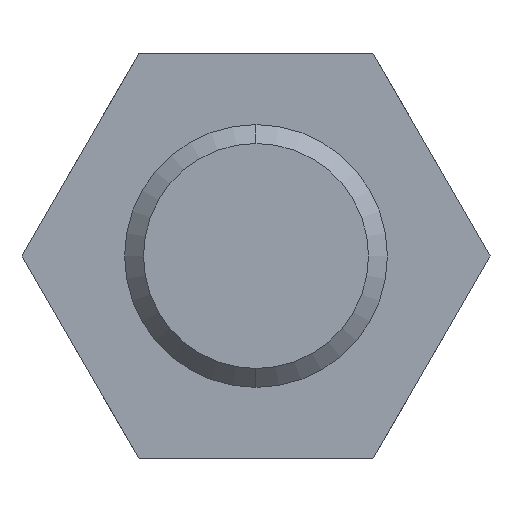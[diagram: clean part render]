
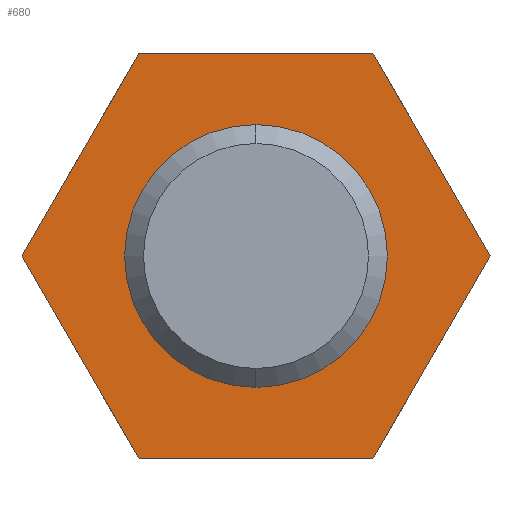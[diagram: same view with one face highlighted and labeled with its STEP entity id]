
A CAD part, front view. The second image highlights one B-rep face of the part: STEP entity #680.
In plain terms, the highlighted planar face has unit normal (0, -1, 0).
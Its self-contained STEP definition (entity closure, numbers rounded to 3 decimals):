
#22 = EDGE_CURVE ( 'NONE', #782, #386, #824, .T. ) ;
#30 = CARTESIAN_POINT ( 'NONE',  ( -9.62, 5.8, 1.663 ) ) ;
#50 = ORIENTED_EDGE ( 'NONE', *, *, #377, .T. ) ;
#92 = DIRECTION ( 'NONE',  ( 0., 0., 1. ) ) ;
#113 = CARTESIAN_POINT ( 'NONE',  ( 0., 5.8, -4.864 ) ) ;
#143 = VECTOR ( 'NONE', #708, 1000. ) ;
#144 = VECTOR ( 'NONE', #715, 1000. ) ;
#157 = AXIS2_PLACEMENT_3D ( 'NONE', #606, #958, #945 ) ;
#158 = VERTEX_POINT ( 'NONE', #331 ) ;
#185 = CARTESIAN_POINT ( 'NONE',  ( 3.37, 5.8, 9.163 ) ) ;
#197 = CARTESIAN_POINT ( 'NONE',  ( 4.33, 5.8, -7.5 ) ) ;
#231 = EDGE_CURVE ( 'NONE', #687, #782, #702, .T. ) ;
#251 = DIRECTION ( 'NONE',  ( 0., 0., -1. ) ) ;
#254 = VERTEX_POINT ( 'NONE', #1055 ) ;
#260 = DIRECTION ( 'NONE',  ( 0., 1., 0. ) ) ;
#306 = AXIS2_PLACEMENT_3D ( 'NONE', #768, #323, #251 ) ;
#323 = DIRECTION ( 'NONE',  ( 0., -1., 0. ) ) ;
#331 = CARTESIAN_POINT ( 'NONE',  ( -4.33, 5.8, -7.5 ) ) ;
#345 = DIRECTION ( 'NONE',  ( 1., 0., 0. ) ) ;
#361 = VERTEX_POINT ( 'NONE', #197 ) ;
#377 = EDGE_CURVE ( 'NONE', #386, #1074, #785, .T. ) ;
#386 = VERTEX_POINT ( 'NONE', #876 ) ;
#390 = CARTESIAN_POINT ( 'NONE',  ( -12.5, 5.8, 7.5 ) ) ;
#399 = VERTEX_POINT ( 'NONE', #113 ) ;
#418 = ORIENTED_EDGE ( 'NONE', *, *, #1069, .T. ) ;
#446 = LINE ( 'NONE', #618, #884 ) ;
#451 = ORIENTED_EDGE ( 'NONE', *, *, #22, .T. ) ;
#466 = CARTESIAN_POINT ( 'NONE',  ( 3.37, 5.8, -9.163 ) ) ;
#502 = ORIENTED_EDGE ( 'NONE', *, *, #525, .T. ) ;
#512 = LINE ( 'NONE', #30, #144 ) ;
#521 = CARTESIAN_POINT ( 'NONE',  ( -8.66, 5.8, 0. ) ) ;
#525 = EDGE_CURVE ( 'NONE', #361, #687, #1093, .T. ) ;
#606 = CARTESIAN_POINT ( 'NONE',  ( 0., 5.8, 0. ) ) ;
#618 = CARTESIAN_POINT ( 'NONE',  ( -12.5, 5.8, -7.5 ) ) ;
#650 = CIRCLE ( 'NONE', #157, 4.864 ) ;
#680 = ADVANCED_FACE ( 'NONE', ( #858, #1106 ), #1111, .T. ) ;
#687 = VERTEX_POINT ( 'NONE', #847 ) ;
#702 = LINE ( 'NONE', #185, #143 ) ;
#704 = CARTESIAN_POINT ( 'NONE',  ( 4.33, 5.8, 7.5 ) ) ;
#708 = DIRECTION ( 'NONE',  ( -0.5, 0., 0.866 ) ) ;
#715 = DIRECTION ( 'NONE',  ( 0.5, 0., -0.866 ) ) ;
#724 = EDGE_LOOP ( 'NONE', ( #795, #502, #831, #451, #50, #772 ) ) ;
#731 = DIRECTION ( 'NONE',  ( -1., 0., 0. ) ) ;
#734 = DIRECTION ( 'NONE',  ( 0.5, 0., 0.866 ) ) ;
#754 = VECTOR ( 'NONE', #731, 1000. ) ;
#768 = CARTESIAN_POINT ( 'NONE',  ( -12.5, 5.8, 0. ) ) ;
#772 = ORIENTED_EDGE ( 'NONE', *, *, #779, .T. ) ;
#774 = CIRCLE ( 'NONE', #923, 4.864 ) ;
#779 = EDGE_CURVE ( 'NONE', #1074, #158, #512, .T. ) ;
#782 = VERTEX_POINT ( 'NONE', #704 ) ;
#785 = LINE ( 'NONE', #967, #883 ) ;
#795 = ORIENTED_EDGE ( 'NONE', *, *, #805, .T. ) ;
#805 = EDGE_CURVE ( 'NONE', #158, #361, #446, .T. ) ;
#824 = LINE ( 'NONE', #390, #754 ) ;
#831 = ORIENTED_EDGE ( 'NONE', *, *, #231, .T. ) ;
#847 = CARTESIAN_POINT ( 'NONE',  ( 8.66, 5.8, 0. ) ) ;
#849 = EDGE_CURVE ( 'NONE', #399, #254, #774, .T. ) ;
#858 = FACE_BOUND ( 'NONE', #965, .T. ) ;
#876 = CARTESIAN_POINT ( 'NONE',  ( -4.33, 5.8, 7.5 ) ) ;
#883 = VECTOR ( 'NONE', #1047, 1000. ) ;
#884 = VECTOR ( 'NONE', #345, 1000. ) ;
#917 = ORIENTED_EDGE ( 'NONE', *, *, #849, .T. ) ;
#923 = AXIS2_PLACEMENT_3D ( 'NONE', #1037, #260, #92 ) ;
#945 = DIRECTION ( 'NONE',  ( 0., 0., 1. ) ) ;
#958 = DIRECTION ( 'NONE',  ( 0., 1., 0. ) ) ;
#965 = EDGE_LOOP ( 'NONE', ( #418, #917 ) ) ;
#967 = CARTESIAN_POINT ( 'NONE',  ( -9.62, 5.8, -1.663 ) ) ;
#973 = VECTOR ( 'NONE', #734, 1000. ) ;
#1037 = CARTESIAN_POINT ( 'NONE',  ( 0., 5.8, 0. ) ) ;
#1047 = DIRECTION ( 'NONE',  ( -0.5, 0., -0.866 ) ) ;
#1055 = CARTESIAN_POINT ( 'NONE',  ( 0., 5.8, 4.864 ) ) ;
#1069 = EDGE_CURVE ( 'NONE', #254, #399, #650, .T. ) ;
#1074 = VERTEX_POINT ( 'NONE', #521 ) ;
#1093 = LINE ( 'NONE', #466, #973 ) ;
#1106 = FACE_OUTER_BOUND ( 'NONE', #724, .T. ) ;
#1111 = PLANE ( 'NONE',  #306 ) ;
